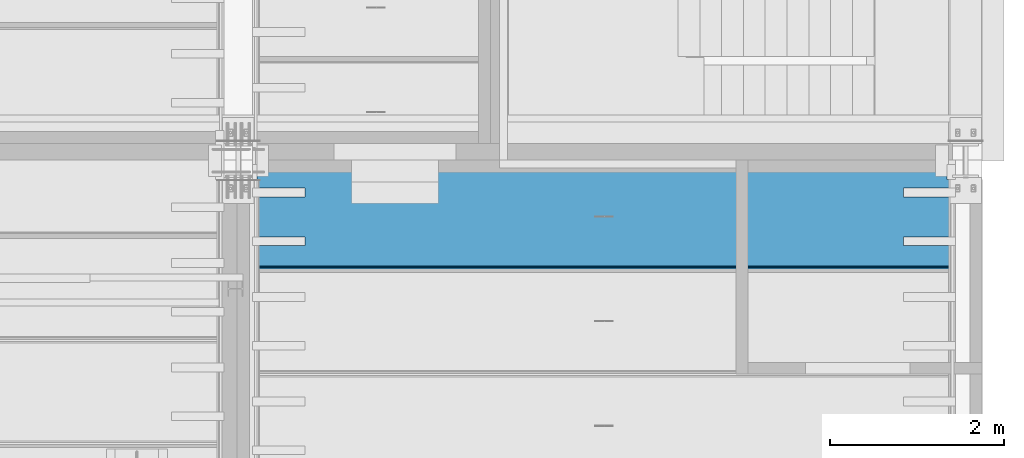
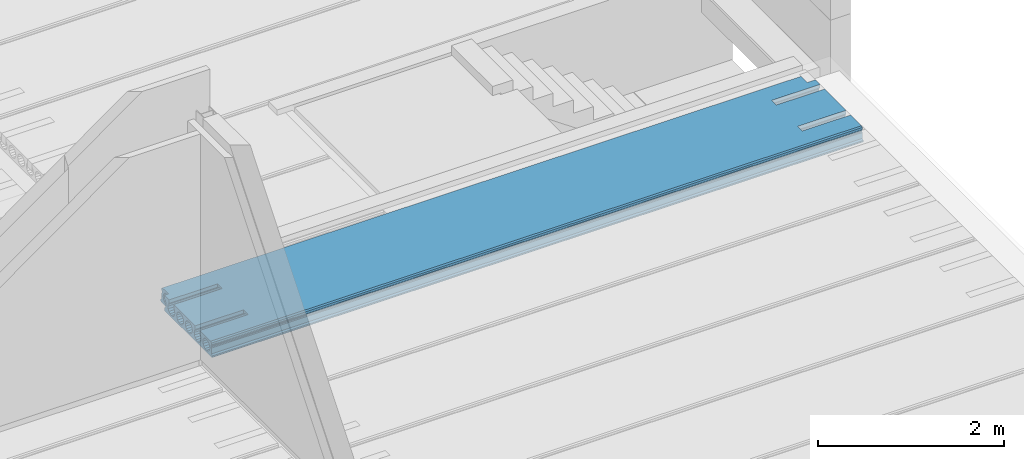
# One storey, part 123 of 230: 1 beam.
"""IFC4X3_ADD2 building model written with IfcOpenShell, lengths in millimetres."""

from ifc_helpers import new_model, si_unit, direction, origin_with_axes, place, context, subcontext, project, spatial, polygons, element, save


model = new_model("IFC4X3_ADD2")

# Units and contexts
model_context = context("Model", 3, precision=1e-05, world=origin_with_axes(), true_north=direction((0.0, 1.0)))
body_context = subcontext(model_context, "Body", "Model", "MODEL_VIEW")
ifc_project = project(units=[si_unit("LENGTHUNIT", "METRE", prefix="MILLI"), si_unit("AREAUNIT", "SQUARE_METRE"), si_unit("VOLUMEUNIT", "CUBIC_METRE"), si_unit("PLANEANGLEUNIT", "RADIAN"), si_unit("TIMEUNIT", "SECOND"), si_unit("MASSUNIT", "GRAM")], contexts=[model_context])

# Site, building, storey
site_placement = place(None, origin_with_axes())
site = spatial("IfcSite", under=ifc_project, at=site_placement, Name="Site", CompositionType="ELEMENT")
building_placement = place(site_placement, origin_with_axes())
building = spatial("IfcBuilding", under=site, at=building_placement, Name="IFC Building Story")
storey_placement = place(building_placement, origin_with_axes())
storey = spatial("IfcBuildingStorey", under=building, at=storey_placement, Name="ETAGE 00 (0)", Elevation=0.0)

# Beam
beam_placement = place(storey_placement, origin_with_axes())
element("IfcBeam", 1, at=beam_placement, inside=storey, Name="HOLLOWCORE SLAB", ObjectType="EB_SP200", context=body_context, shape_type="Tessellation", body=[
    polygons([(40131.189, 16571.0, 3999.9999909), (40131.189, 16560.0, 4012.999990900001), (40131.189, 16560.0, 4029.9999909), (40131.189, 16580.0, 4044.999990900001), (40131.189, 16581.45001220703, 4119.9999909), (40131.189, 16588.98262147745, 4128.676139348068), (40131.189, 16591.83993001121, 4139.805000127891), (40131.189, 16589.41863641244, 4151.036789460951), (40131.189, 16582.22998046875, 4159.9999909), (40131.189, 16582.71129616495, 4185.002769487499), (40131.189, 16598.0, 4199.9999909), (40131.189, 16830.0, 4199.9999909), (40131.189, 16830.0, 4155.806158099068), (40131.189, 16825.32054480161, 4152.679446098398), (40131.189, 16809.17097482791, 4128.509906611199), (40131.189, 16803.5, 4099.9999909), (40131.189, 16809.17097482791, 4071.490075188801), (40131.189, 16825.32054480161, 4047.320535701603), (40131.189, 16849.4900842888, 4031.17096572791), (40131.189, 16878.0, 4025.499990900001), (40131.189, 16906.5099157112, 4031.17096572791), (40131.189, 16930.6794551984, 4047.320535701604), (40131.189, 16946.82902517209, 4071.490075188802), (40131.189, 16952.5, 4099.9999909), (40131.189, 16946.82902517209, 4128.5099066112), (40131.189, 16930.6794551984, 4152.679446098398), (40131.189, 16930.0, 4153.13344354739), (40131.189, 16930.0, 4199.9999909), (40131.189, 17390.0, 4199.9999909), (40131.189, 17390.0, 4153.133443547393), (40131.189, 17389.3205448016, 4152.679446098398), (40131.189, 17373.17097482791, 4128.509906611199), (40131.189, 17367.5, 4099.9999909), (40131.189, 17373.17097482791, 4071.490075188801), (40131.189, 17389.32054480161, 4047.320535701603), (40131.189, 17413.4900842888, 4031.17096572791), (40131.189, 17442.0, 4025.499990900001), (40131.189, 17470.5099157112, 4031.17096572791), (40131.189, 17494.6794551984, 4047.320535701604), (40131.189, 17510.82902517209, 4071.490075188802), (40131.189, 17516.5, 4099.9999909), (40131.189, 17510.82902517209, 4128.5099066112), (40131.189, 17494.6794551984, 4152.679446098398), (40131.189, 17490.0, 4155.806158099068), (40131.189, 17490.0, 4199.9999909), (40131.189, 17590.0, 4199.9999909), (40131.189, 17590.0, 4161.151587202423), (40131.189, 17577.3205448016, 4152.679446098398), (40131.189, 17561.17097482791, 4128.509906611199), (40131.189, 17555.5, 4099.9999909), (40131.189, 17561.17097482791, 4071.490075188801), (40131.189, 17577.3205448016, 4047.320535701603), (40131.189, 17590.0, 4038.848394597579), (40131.189, 17590.0, 3999.9999909), (40131.189, 17306.6794551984, 4152.679446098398), (40131.189, 17282.5099157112, 4168.829016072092), (40131.189, 17254.0, 4174.4999909), (40131.189, 17225.4900842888, 4168.829016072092), (40131.189, 17201.32054480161, 4152.679446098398), (40131.189, 17185.17097482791, 4128.509906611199), (40131.189, 17179.5, 4099.9999909), (40131.189, 17185.17097482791, 4071.490075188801), (40131.189, 17201.32054480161, 4047.320535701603), (40131.189, 17225.4900842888, 4031.17096572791), (40131.189, 17254.0, 4025.499990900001), (40131.189, 17282.5099157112, 4031.17096572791), (40131.189, 17306.6794551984, 4047.320535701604), (40131.189, 17322.82902517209, 4071.490075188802), (40131.189, 17328.5, 4099.9999909), (40131.189, 17322.82902517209, 4128.5099066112), (40131.189, 17118.6794551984, 4152.679446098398), (40131.189, 17094.5099157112, 4168.829016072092), (40131.189, 17066.0, 4174.4999909), (40131.189, 17037.4900842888, 4168.829016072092), (40131.189, 17013.32054480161, 4152.679446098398), (40131.189, 16997.17097482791, 4128.509906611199), (40131.189, 16991.5, 4099.9999909), (40131.189, 16997.17097482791, 4071.490075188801), (40131.189, 17013.32054480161, 4047.320535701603), (40131.189, 17037.4900842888, 4031.17096572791), (40131.189, 17066.0, 4025.499990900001), (40131.189, 17094.5099157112, 4031.17096572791), (40131.189, 17118.6794551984, 4047.320535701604), (40131.189, 17134.82902517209, 4071.490075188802), (40131.189, 17140.5, 4099.9999909), (40131.189, 17134.82902517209, 4128.5099066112), (40131.189, 16742.6794551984, 4152.679446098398), (40131.189, 16718.5099157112, 4168.829016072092), (40131.189, 16690.0, 4174.4999909), (40131.189, 16661.49008428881, 4168.829016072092), (40131.189, 16637.3205448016, 4152.679446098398), (40131.189, 16621.17097482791, 4128.509906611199), (40131.189, 16615.5, 4099.9999909), (40131.189, 16621.17097482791, 4071.490075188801), (40131.189, 16637.32054480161, 4047.320535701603), (40131.189, 16661.49008428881, 4031.17096572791), (40131.189, 16690.0, 4025.499990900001), (40131.189, 16718.5099157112, 4031.17096572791), (40131.189, 16742.6794551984, 4047.320535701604), (40131.189, 16758.82902517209, 4071.490075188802), (40131.189, 16764.5, 4099.9999909), (40131.189, 16758.82902517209, 4128.5099066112), (48196.189, 17490.0, 4199.9999909), (48196.189, 17490.0, 4155.806158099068), (48196.189, 17494.6794551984, 4152.679446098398), (48196.189, 17510.82902517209, 4128.509906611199), (48196.189, 17516.5, 4099.9999909), (48196.189, 17510.82902517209, 4071.490075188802), (48196.189, 17494.6794551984, 4047.320535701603), (48196.189, 17470.5099157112, 4031.17096572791), (48196.189, 17442.0, 4025.499990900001), (48196.189, 17413.4900842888, 4031.17096572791), (48196.189, 17389.3205448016, 4047.320535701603), (48196.189, 17373.17097482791, 4071.490075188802), (48196.189, 17367.5, 4099.9999909), (48196.189, 17373.17097482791, 4128.509906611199), (48196.189, 17389.3205448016, 4152.679446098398), (48196.189, 17390.0, 4153.133443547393), (48196.189, 17390.0, 4199.9999909), (48196.189, 16930.0, 4199.9999909), (48196.189, 16930.0, 4153.13344354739), (48196.189, 16930.6794551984, 4152.679446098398), (48196.189, 16946.82902517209, 4128.509906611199), (48196.189, 16952.5, 4099.9999909), (48196.189, 16946.82902517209, 4071.490075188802), (48196.189, 16930.6794551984, 4047.320535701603), (48196.189, 16906.5099157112, 4031.17096572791), (48196.189, 16878.0, 4025.499990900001), (48196.189, 16849.4900842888, 4031.17096572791), (48196.189, 16825.32054480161, 4047.320535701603), (48196.189, 16809.17097482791, 4071.490075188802), (48196.189, 16803.5, 4099.9999909), (48196.189, 16809.17097482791, 4128.509906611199), (48196.189, 16825.32054480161, 4152.679446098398), (48196.189, 16830.0, 4155.806158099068), (48196.189, 16830.0, 4199.9999909), (48196.189, 16598.0, 4199.9999909), (48196.189, 16582.71129616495, 4185.002769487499), (48196.189, 16582.22998046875, 4159.9999909), (48196.189, 16589.41863641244, 4151.036789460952), (48196.189, 16591.83993001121, 4139.805000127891), (48196.189, 16588.98262147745, 4128.676139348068), (48196.189, 16581.45001220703, 4119.9999909), (48196.189, 16580.0, 4044.999990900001), (48196.189, 16560.0, 4029.9999909), (48196.189, 16560.0, 4012.999990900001), (48196.189, 16571.0, 3999.9999909), (48196.189, 17590.0, 3999.9999909), (48196.189, 17590.0, 4038.848394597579), (48196.189, 17577.3205448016, 4047.320535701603), (48196.189, 17561.17097482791, 4071.490075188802), (48196.189, 17555.5, 4099.9999909), (48196.189, 17561.17097482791, 4128.509906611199), (48196.189, 17577.3205448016, 4152.679446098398), (48196.189, 17590.0, 4161.151587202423), (48196.189, 17590.0, 4199.9999909), (48196.189, 17306.6794551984, 4152.679446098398), (48196.189, 17322.82902517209, 4128.509906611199), (48196.189, 17328.5, 4099.9999909), (48196.189, 17322.82902517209, 4071.490075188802), (48196.189, 17306.6794551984, 4047.320535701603), (48196.189, 17282.5099157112, 4031.17096572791), (48196.189, 17254.0, 4025.499990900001), (48196.189, 17225.4900842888, 4031.17096572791), (48196.189, 17201.32054480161, 4047.320535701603), (48196.189, 17185.17097482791, 4071.490075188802), (48196.189, 17179.5, 4099.9999909), (48196.189, 17185.17097482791, 4128.509906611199), (48196.189, 17201.32054480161, 4152.679446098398), (48196.189, 17225.4900842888, 4168.829016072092), (48196.189, 17254.0, 4174.4999909), (48196.189, 17282.5099157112, 4168.829016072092), (48196.189, 17118.6794551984, 4152.679446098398), (48196.189, 17134.82902517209, 4128.509906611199), (48196.189, 17140.5, 4099.9999909), (48196.189, 17134.82902517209, 4071.490075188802), (48196.189, 17118.6794551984, 4047.320535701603), (48196.189, 17094.5099157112, 4031.17096572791), (48196.189, 17066.0, 4025.499990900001), (48196.189, 17037.4900842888, 4031.17096572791), (48196.189, 17013.32054480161, 4047.320535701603), (48196.189, 16997.17097482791, 4071.490075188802), (48196.189, 16991.5, 4099.9999909), (48196.189, 16997.17097482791, 4128.509906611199), (48196.189, 17013.32054480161, 4152.679446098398), (48196.189, 17037.4900842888, 4168.829016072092), (48196.189, 17066.0, 4174.4999909), (48196.189, 17094.5099157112, 4168.829016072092), (48196.189, 16742.6794551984, 4152.679446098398), (48196.189, 16758.82902517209, 4128.509906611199), (48196.189, 16764.5, 4099.9999909), (48196.189, 16758.82902517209, 4071.490075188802), (48196.189, 16742.6794551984, 4047.320535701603), (48196.189, 16718.5099157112, 4031.17096572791), (48196.189, 16690.0, 4025.499990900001), (48196.189, 16661.49008428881, 4031.17096572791), (48196.189, 16637.32054480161, 4047.320535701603), (48196.189, 16621.17097482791, 4071.490075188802), (48196.189, 16615.5, 4099.9999909), (48196.189, 16621.17097482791, 4128.509906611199), (48196.189, 16637.32054480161, 4152.679446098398), (48196.189, 16661.49008428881, 4168.829016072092), (48196.189, 16690.0, 4174.4999909), (48196.189, 16718.5099157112, 4168.829016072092), (40181.189, 17590.0, 3999.9999909), (40181.189, 17749.0, 3999.9999909), (48096.18900000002, 17749.0, 3999.9999909), (48096.18900000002, 17590.0, 3999.9999909), (47596.18900000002, 16830.0, 4199.9999909), (47596.18900000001, 16930.0, 4199.9999909), (47596.18900000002, 17390.0, 4199.9999909), (47596.18900000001, 17490.0, 4199.9999909), (48096.18900000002, 17590.0, 4199.9999909), (48096.18900000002, 17722.0, 4199.9999909), (40181.189, 17722.0, 4199.9999909), (40181.189, 17590.0, 4199.9999909), (40731.189, 17490.0, 4199.9999909), (40731.189, 17390.0, 4199.9999909), (40731.189, 16930.0, 4199.9999909), (40731.189, 16830.0, 4199.9999909), (40181.189, 17737.28870383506, 4185.002769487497), (48096.18900000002, 17737.28870383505, 4185.002769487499), (40181.189, 17737.77001953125, 4159.9999909), (48096.18900000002, 17737.77001953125, 4159.9999909), (40181.189, 17730.58136358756, 4151.036789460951), (48096.18900000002, 17730.58136358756, 4151.036789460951), (40181.189, 17728.16006998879, 4139.805000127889), (48096.18900000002, 17728.16006998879, 4139.805000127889), (40181.189, 17731.01737852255, 4128.676139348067), (48096.18900000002, 17731.01737852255, 4128.676139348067), (40181.189, 17738.54998779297, 4119.9999909), (48096.18900000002, 17738.54998779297, 4119.9999909), (40181.189, 17740.0, 4044.9999909), (48096.18900000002, 17740.0, 4044.999990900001), (40181.189, 17760.0, 4029.9999909), (48096.18900000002, 17760.0, 4029.9999909), (40181.189, 17760.0, 4012.9999909), (48096.18900000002, 17760.0, 4012.9999909), (40181.189, 17658.5099157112, 4168.829016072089), (40181.189, 17682.6794551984, 4152.679446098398), (48096.18900000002, 17682.6794551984, 4152.679446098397), (48096.18900000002, 17658.5099157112, 4168.829016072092), (40181.189, 17630.0, 4174.499990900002), (48096.18900000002, 17630.0, 4174.4999909), (40181.189, 17601.4900842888, 4168.829016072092), (48096.18900000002, 17601.4900842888, 4168.829016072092), (40181.189, 17590.0, 4161.151587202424), (48096.18900000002, 17590.0, 4161.151587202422), (48096.18900000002, 17590.0, 4038.848394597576), (48096.18900000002, 17601.4900842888, 4031.17096572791), (40181.189, 17601.4900842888, 4031.170965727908), (40181.189, 17590.0, 4038.84839459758), (40181.189, 17630.0, 4025.499990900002), (48096.18900000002, 17630.0, 4025.499990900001), (40181.189, 17658.5099157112, 4031.17096572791), (48096.18900000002, 17658.5099157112, 4031.17096572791), (40181.189, 17682.6794551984, 4047.320535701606), (48096.18900000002, 17682.6794551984, 4047.320535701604), (40181.189, 17698.82902517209, 4071.490075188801), (48096.18900000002, 17698.82902517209, 4071.490075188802), (40181.189, 17704.5, 4099.9999909), (48096.18900000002, 17704.5, 4099.9999909), (40181.189, 17698.82902517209, 4128.5099066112), (48096.18900000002, 17698.82902517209, 4128.5099066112), (47596.18900000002, 17490.0, 4155.806158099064), (47596.18900000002, 17470.5099157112, 4168.829016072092), (40731.189, 17470.50991571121, 4168.829016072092), (40731.189, 17490.0, 4155.806158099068), (47596.18900000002, 17442.0, 4174.4999909), (40731.189, 17442.0, 4174.4999909), (47596.18900000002, 17413.4900842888, 4168.829016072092), (40731.189, 17413.4900842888, 4168.829016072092), (40731.189, 17390.0, 4153.133443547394), (47596.18900000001, 17390.0, 4153.133443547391), (47596.18900000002, 16930.0, 4153.13344354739), (47596.18900000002, 16906.5099157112, 4168.829016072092), (40731.189, 16906.5099157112, 4168.82901607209), (40731.189, 16930.0, 4153.13344354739), (47596.18900000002, 16878.0, 4174.4999909), (40731.189, 16878.0, 4174.4999909), (47596.18900000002, 16849.4900842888, 4168.829016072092), (40731.189, 16849.4900842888, 4168.829016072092), (40731.189, 16830.0, 4155.806158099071), (47596.18900000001, 16830.0, 4155.806158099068), (40731.189, 17390.0, 4199.9999969), (40731.189, 17490.0, 4199.9999969), (47596.18900000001, 17490.0, 4199.9999969), (47596.18900000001, 17390.0, 4199.9999969), (47596.18900000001, 16930.0, 4199.9999969), (47596.18900000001, 16830.0, 4199.9999969), (40731.189, 16830.0, 4199.9999969), (40731.189, 16930.0, 4199.9999969), (48096.18900000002, 17590.0, 3999.999996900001), (48096.18900000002, 17590.0, 4199.9999969)], [[[26, 27, 28]], [[74, 75, 25]], [[74, 25, 26]], [[74, 26, 28]], [[28, 73, 74]], [[73, 28, 29]], [[29, 72, 73]], [[29, 71, 72]], [[76, 77, 24]], [[76, 24, 25]], [[25, 75, 76]], [[78, 79, 23]], [[23, 24, 77]], [[23, 77, 78]], [[79, 22, 23]], [[58, 59, 86]], [[58, 86, 71]], [[71, 57, 58]], [[57, 71, 29]], [[29, 56, 57]], [[29, 55, 56]], [[60, 61, 85]], [[60, 85, 86]], [[86, 59, 60]], [[62, 63, 84]], [[84, 85, 61]], [[84, 61, 62]], [[63, 83, 84]], [[70, 55, 29]], [[70, 29, 30]], [[32, 33, 69]], [[32, 69, 70]], [[70, 31, 32]], [[70, 30, 31]], [[34, 35, 68]], [[68, 69, 33]], [[68, 33, 34]], [[43, 44, 45]], [[45, 46, 47]], [[45, 47, 42]], [[45, 42, 43]], [[49, 50, 41]], [[49, 41, 42]], [[42, 48, 49]], [[42, 47, 48]], [[52, 53, 40]], [[40, 51, 52]], [[40, 41, 50]], [[40, 50, 51]], [[53, 54, 39]], [[53, 39, 40]], [[54, 38, 39]], [[54, 37, 38]], [[54, 67, 37]], [[67, 36, 37]], [[67, 68, 35]], [[67, 35, 36]], [[54, 66, 67]], [[54, 65, 66]], [[54, 82, 65]], [[82, 64, 65]], [[82, 83, 63]], [[82, 63, 64]], [[54, 81, 82]], [[54, 21, 81]], [[21, 80, 81]], [[21, 22, 79]], [[21, 79, 80]], [[54, 20, 21]], [[54, 1, 20]], [[1, 19, 20]], [[1, 18, 19]], [[8, 9, 10]], [[8, 10, 11]], [[91, 92, 7]], [[91, 7, 8]], [[8, 11, 90]], [[8, 90, 91]], [[11, 89, 90]], [[89, 11, 12]], [[12, 88, 89]], [[12, 87, 88]], [[92, 6, 7]], [[94, 95, 4]], [[4, 5, 93]], [[4, 93, 94]], [[5, 6, 92]], [[5, 92, 93]], [[98, 99, 17]], [[98, 17, 18]], [[18, 97, 98]], [[18, 1, 97]], [[1, 96, 97]], [[1, 4, 95]], [[1, 95, 96]], [[1, 2, 3]], [[1, 3, 4]], [[100, 101, 16]], [[100, 16, 17]], [[17, 99, 100]], [[102, 87, 15]], [[15, 16, 101]], [[15, 101, 102]], [[87, 12, 14]], [[87, 14, 15]], [[12, 13, 14]], [[144, 145, 146]], [[144, 146, 147]], [[154, 155, 156]], [[156, 103, 104]], [[156, 104, 153]], [[156, 153, 154]], [[106, 107, 152]], [[106, 152, 153]], [[153, 105, 106]], [[153, 104, 105]], [[108, 109, 151]], [[151, 152, 107]], [[151, 107, 108]], [[117, 118, 119]], [[119, 157, 116]], [[119, 116, 117]], [[158, 159, 115]], [[158, 115, 116]], [[116, 157, 158]], [[160, 161, 114]], [[114, 115, 159]], [[114, 159, 160]], [[161, 113, 114]], [[172, 157, 119]], [[119, 171, 172]], [[119, 173, 171]], [[173, 170, 171]], [[173, 169, 170]], [[173, 168, 169]], [[174, 175, 167]], [[174, 167, 168]], [[168, 173, 174]], [[176, 177, 166]], [[166, 167, 175]], [[166, 175, 176]], [[177, 165, 166]], [[188, 173, 119]], [[119, 187, 188]], [[119, 120, 187]], [[120, 186, 187]], [[120, 185, 186]], [[120, 121, 184]], [[120, 184, 185]], [[123, 124, 183]], [[123, 183, 184]], [[184, 122, 123]], [[184, 121, 122]], [[125, 126, 182]], [[182, 183, 124]], [[182, 124, 125]], [[126, 181, 182]], [[134, 135, 136]], [[136, 189, 133]], [[136, 133, 134]], [[190, 191, 132]], [[190, 132, 133]], [[133, 189, 190]], [[192, 193, 131]], [[131, 132, 191]], [[131, 191, 192]], [[199, 200, 142]], [[199, 142, 143]], [[143, 144, 198]], [[143, 198, 199]], [[144, 147, 197]], [[144, 197, 198]], [[147, 196, 197]], [[147, 195, 196]], [[147, 194, 195]], [[147, 130, 194]], [[130, 131, 193]], [[130, 193, 194]], [[147, 129, 130]], [[147, 128, 129]], [[147, 180, 128]], [[180, 127, 128]], [[180, 181, 126]], [[180, 126, 127]], [[147, 179, 180]], [[147, 164, 179]], [[164, 178, 179]], [[164, 165, 177]], [[164, 177, 178]], [[147, 163, 164]], [[147, 112, 163]], [[112, 162, 163]], [[112, 113, 161]], [[112, 161, 162]], [[147, 111, 112]], [[147, 148, 111]], [[148, 110, 111]], [[148, 150, 151]], [[148, 151, 109]], [[148, 109, 110]], [[148, 149, 150]], [[200, 141, 142]], [[204, 189, 136]], [[136, 203, 204]], [[136, 137, 203]], [[137, 202, 203]], [[137, 140, 201]], [[137, 201, 202]], [[140, 141, 200]], [[140, 200, 201]], [[137, 138, 139]], [[137, 139, 140]], [[208, 148, 147]], [[208, 147, 205]], [[205, 206, 207]], [[205, 207, 208]], [[147, 1, 205]], [[1, 54, 205]], [[2, 1, 147, 146]], [[3, 2, 146, 145]], [[4, 3, 145, 144]], [[5, 4, 144, 143]], [[6, 5, 143, 142]], [[7, 6, 142, 141]], [[8, 7, 141, 140]], [[9, 8, 140, 139]], [[10, 9, 139, 138]], [[11, 10, 138, 137]], [[210, 120, 119]], [[210, 119, 211]], [[213, 214, 212]], [[212, 103, 213]], [[103, 156, 213]], [[212, 214, 215]], [[215, 211, 212]], [[210, 211, 215]], [[215, 209, 210]], [[216, 46, 45]], [[218, 29, 28]], [[218, 28, 219]], [[220, 12, 11]], [[220, 11, 137]], [[137, 219, 220]], [[218, 219, 137]], [[137, 217, 218]], [[137, 209, 215]], [[137, 215, 217]], [[216, 45, 217]], [[217, 215, 216]], [[137, 136, 209]], [[221, 215, 214, 222]], [[223, 221, 222, 224]], [[225, 223, 224, 226]], [[227, 225, 226, 228]], [[229, 227, 228, 230]], [[231, 229, 230, 232]], [[233, 231, 232, 234]], [[235, 233, 234, 236]], [[237, 235, 236, 238]], [[206, 237, 238, 207]], [[239, 240, 241, 242]], [[243, 239, 242, 244]], [[245, 243, 244, 246]], [[247, 245, 246]], [[248, 155, 154]], [[248, 154, 48]], [[248, 48, 247]], [[247, 246, 248]], [[48, 47, 247]], [[49, 48, 154, 153]], [[50, 49, 153, 152]], [[51, 50, 152, 151]], [[52, 51, 151, 150]], [[249, 250, 251]], [[252, 53, 52]], [[252, 52, 150]], [[252, 150, 249]], [[249, 251, 252]], [[150, 149, 249]], [[253, 251, 250, 254]], [[255, 253, 254, 256]], [[257, 255, 256, 258]], [[259, 257, 258, 260]], [[261, 259, 260, 262]], [[263, 261, 262, 264]], [[240, 263, 264, 241]], [[268, 44, 43]], [[268, 43, 265]], [[265, 266, 267]], [[265, 267, 268]], [[43, 105, 265]], [[105, 104, 265]], [[267, 266, 269, 270]], [[270, 269, 271, 272]], [[274, 118, 117]], [[274, 117, 273]], [[273, 272, 271]], [[273, 271, 274]], [[117, 31, 273]], [[31, 30, 273]], [[32, 31, 117, 116]], [[33, 32, 116, 115]], [[34, 33, 115, 114]], [[35, 34, 114, 113]], [[36, 35, 113, 112]], [[37, 36, 112, 111]], [[38, 37, 111, 110]], [[39, 38, 110, 109]], [[40, 39, 109, 108]], [[41, 40, 108, 107]], [[42, 41, 107, 106]], [[43, 42, 106, 105]], [[56, 55, 157, 172]], [[57, 56, 172, 171]], [[58, 57, 171, 170]], [[59, 58, 170, 169]], [[60, 59, 169, 168]], [[61, 60, 168, 167]], [[62, 61, 167, 166]], [[63, 62, 166, 165]], [[64, 63, 165, 164]], [[65, 64, 164, 163]], [[66, 65, 163, 162]], [[67, 66, 162, 161]], [[68, 67, 161, 160]], [[69, 68, 160, 159]], [[70, 69, 159, 158]], [[55, 70, 158, 157]], [[72, 71, 173, 188]], [[73, 72, 188, 187]], [[74, 73, 187, 186]], [[75, 74, 186, 185]], [[76, 75, 185, 184]], [[77, 76, 184, 183]], [[78, 77, 183, 182]], [[79, 78, 182, 181]], [[80, 79, 181, 180]], [[81, 80, 180, 179]], [[82, 81, 179, 178]], [[83, 82, 178, 177]], [[84, 83, 177, 176]], [[85, 84, 176, 175]], [[86, 85, 175, 174]], [[71, 86, 174, 173]], [[278, 27, 26]], [[278, 26, 275]], [[275, 276, 277]], [[275, 277, 278]], [[26, 122, 275]], [[122, 121, 275]], [[277, 276, 279, 280]], [[280, 279, 281, 282]], [[284, 135, 134]], [[284, 134, 283]], [[283, 282, 281]], [[283, 281, 284]], [[134, 14, 283]], [[14, 13, 283]], [[15, 14, 134, 133]], [[16, 15, 133, 132]], [[17, 16, 132, 131]], [[18, 17, 131, 130]], [[19, 18, 130, 129]], [[20, 19, 129, 128]], [[21, 20, 128, 127]], [[22, 21, 127, 126]], [[23, 22, 126, 125]], [[24, 23, 125, 124]], [[25, 24, 124, 123]], [[26, 25, 123, 122]], [[88, 87, 189, 204]], [[89, 88, 204, 203]], [[90, 89, 203, 202]], [[91, 90, 202, 201]], [[92, 91, 201, 200]], [[93, 92, 200, 199]], [[94, 93, 199, 198]], [[95, 94, 198, 197]], [[96, 95, 197, 196]], [[97, 96, 196, 195]], [[98, 97, 195, 194]], [[99, 98, 194, 193]], [[100, 99, 193, 192]], [[101, 100, 192, 191]], [[102, 101, 191, 190]], [[87, 102, 190, 189]], [[45, 44, 268, 217]], [[30, 29, 285, 273]], [[272, 273, 218]], [[218, 286, 270]], [[218, 270, 272]], [[286, 267, 270]], [[286, 268, 267]], [[119, 118, 274, 211]], [[104, 103, 287, 265]], [[266, 265, 212]], [[212, 269, 266]], [[212, 288, 271]], [[212, 271, 269]], [[288, 274, 271]], [[136, 135, 284, 209]], [[121, 120, 289, 275]], [[276, 275, 210]], [[210, 290, 279]], [[210, 279, 276]], [[290, 281, 279]], [[290, 284, 281]], [[28, 27, 278, 219]], [[13, 12, 291, 283]], [[282, 283, 220]], [[220, 280, 282]], [[220, 292, 277]], [[220, 277, 280]], [[292, 278, 277]], [[54, 53, 252, 205]], [[245, 247, 216]], [[216, 243, 245]], [[216, 215, 239]], [[216, 239, 243]], [[215, 240, 239]], [[225, 227, 263]], [[225, 263, 240]], [[240, 215, 221]], [[240, 221, 223]], [[240, 223, 225]], [[229, 231, 261]], [[229, 261, 263]], [[263, 227, 229]], [[231, 233, 259]], [[231, 259, 261]], [[233, 235, 237]], [[233, 237, 206]], [[206, 257, 259]], [[206, 259, 233]], [[206, 255, 257]], [[206, 205, 255]], [[205, 253, 255]], [[205, 251, 253]], [[205, 252, 251]], [[293, 249, 149, 148]], [[250, 249, 208]], [[208, 254, 250]], [[208, 256, 254]], [[256, 208, 207]], [[207, 258, 256]], [[234, 260, 258]], [[234, 258, 207]], [[207, 238, 236]], [[207, 236, 234]], [[234, 232, 262]], [[234, 262, 260]], [[230, 228, 264]], [[264, 262, 232]], [[264, 232, 230]], [[226, 224, 222]], [[226, 222, 214]], [[226, 214, 241]], [[241, 264, 228]], [[241, 228, 226]], [[214, 242, 241]], [[214, 294, 244]], [[214, 244, 242]], [[294, 246, 244]], [[294, 248, 246]], [[248, 213, 156, 155]], [[47, 46, 216, 247]]]),
])

save(model, "model.ifc")
